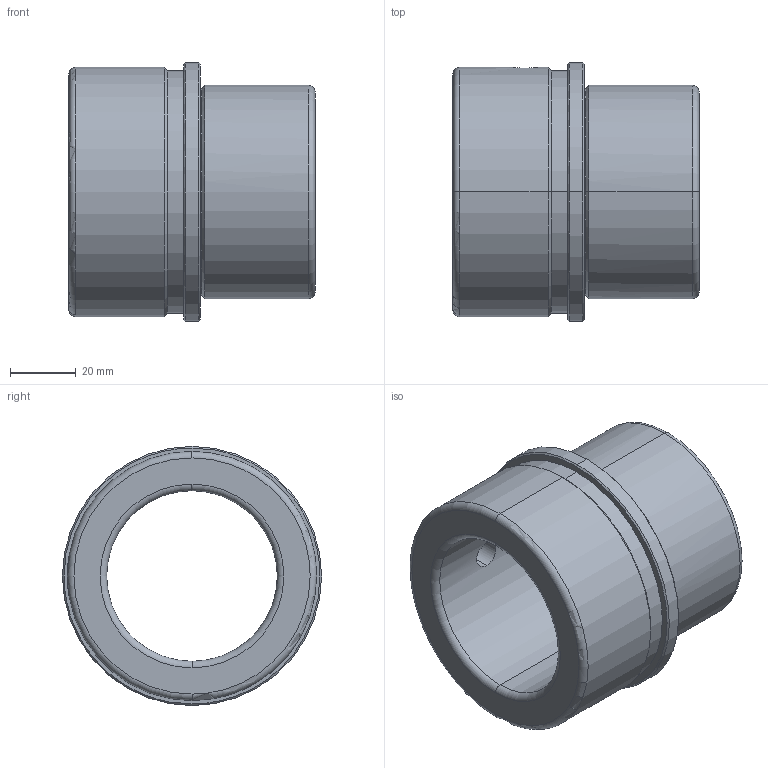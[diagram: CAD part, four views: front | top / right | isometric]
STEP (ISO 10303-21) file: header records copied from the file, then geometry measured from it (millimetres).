
FILE_DESCRIPTION(('CATIA V5 STEP Exchange'),'2;1');
FILE_NAME('C:\Users\Utente\Desktop\IO LAVORO\3D X SITO CF\X SITO\CF 641\CF 641 52 x 75.stp','2020-12-26T14:42:00+00:00',('none'),('none'),'CATIA Version 5 Release 20 GA (IN-10)','CATIA V5 STEP AP203','none');
FILE_SCHEMA(('CONFIG_CONTROL_DESIGN'));
Length unit declared in the file: millimetre
Products named in the file (1): CF 641 52 x 75
Bounding box: 75 x 79 x 79 mm (x, y, z)
Volume: 136889.8 mm3; surface area: 34814.9 mm2
Topology: 1 solids, 1 shells, 37 faces, 126 edges, 94 vertices
Faces by surface type: cylinder 14, cone 10, torus 8, plane 5
Entity records: 1664 total; most frequent: CARTESIAN_POINT 536, ORIENTED_EDGE 252, DIRECTION 178, EDGE_CURVE 126, AXIS2_PLACEMENT_3D 118, VERTEX_POINT 94, CIRCLE 80, EDGE_LOOP 44
